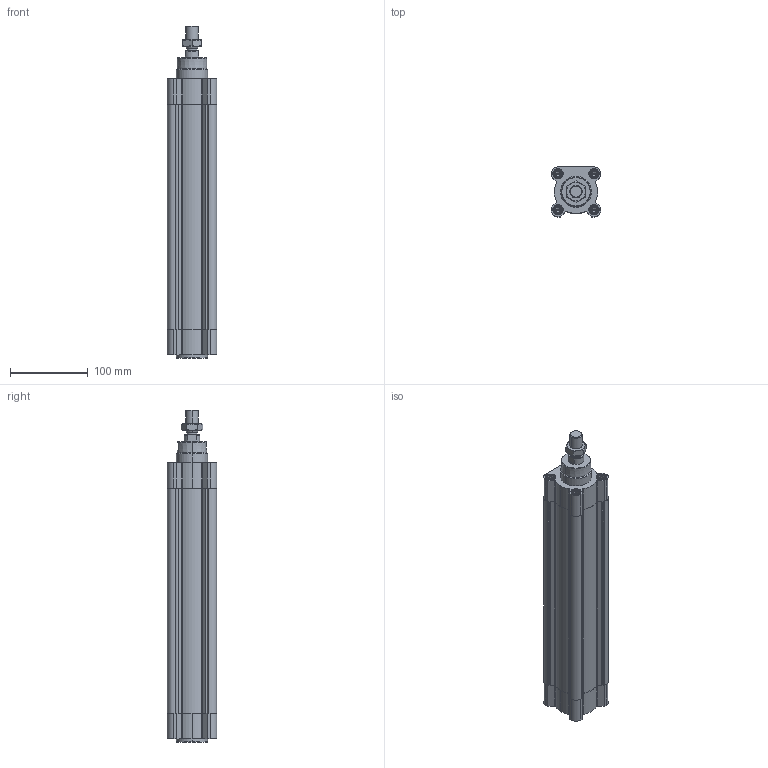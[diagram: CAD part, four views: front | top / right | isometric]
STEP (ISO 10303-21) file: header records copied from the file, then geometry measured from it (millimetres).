
FILE_DESCRIPTION (( 'STEP AP203' ), '1' );
FILE_NAME ('CPME50-250.STEP', '2025-02-20T11:05:58', ( '' ), ( '' ), 'SwSTEP 2.0', 'SolidWorks 2019', '' );
FILE_SCHEMA (( 'CONFIG_CONTROL_DESIGN' ));
Length unit declared in the file: millimetre
Products named in the file (1): CPME50-250
Bounding box: 64 x 64 x 427.8 mm (x, y, z)
Volume: 807363.5 mm3; surface area: 214387.1 mm2
Topology: 3 solids, 3 shells, 639 faces, 1655 edges, 1050 vertices
Faces by surface type: plane 325, cylinder 200, cone 106, torus 8
Entity records: 20033 total; most frequent: CARTESIAN_POINT 4447, ORIENTED_EDGE 3278, DIRECTION 3187, EDGE_CURVE 1639, AXIS2_PLACEMENT_3D 1131, VERTEX_POINT 1050, VECTOR 925, LINE 925
